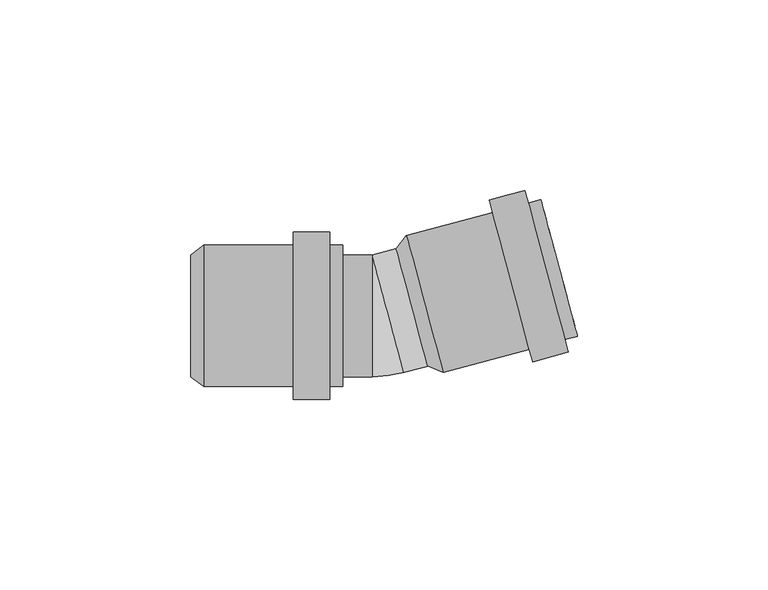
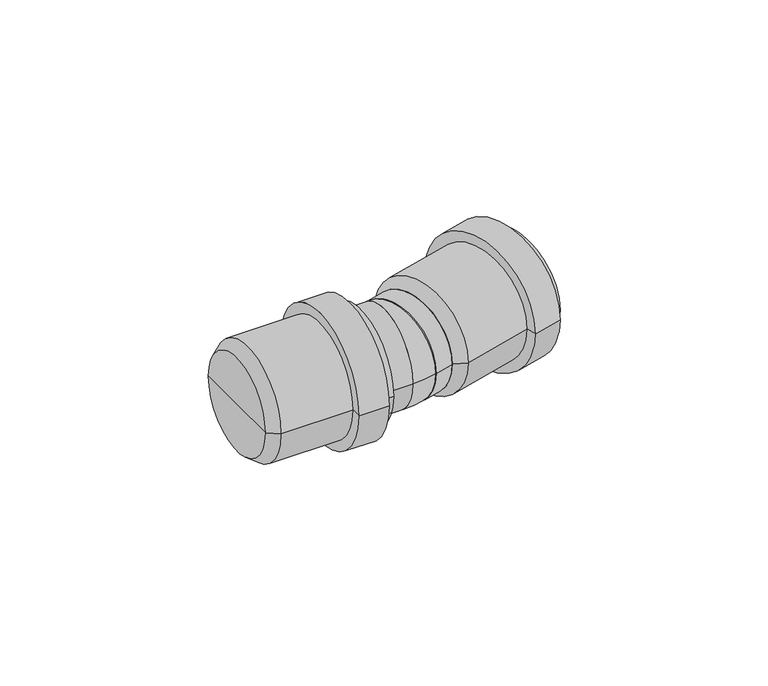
"""IFC4 building model written with IfcOpenShell, lengths in millimetres: pipe fitting geometry, pf_HTB : pf_HTB."""

from ifc_helpers import new_model, si_unit, point, frame, origin, origin_2d, place, context, project, spatial, polyline, circle_curve, ellipse_curve, trimmed, segment, composite_curve, outline, extrude, source, transform, mapped, element, save
from ifc_brep_helpers import plane_surface, cylinder_surface, revolved_surface, advanced_brep


def pipe_fitting_f9c090b8(model_context):
    return source(origin(), model_context, "Body", "SolidModel", [
        advanced_brep(
        [(12.4480668, -13.2289694, 0.0), (4.1658574, 17.680657, 0.0), (6.8736683, 21.0979308, 0.0), (16.5017367, -14.8345099, 0.0), (8.3069621, 2.2258438, 0.0), (51.7580294, -5.3876148, 0.0), (42.1299609, 30.544826, 0.0), (42.8028904, 28.0334188, 0.0), (51.0850999, -2.8762076, 0.0), (48.4738816, -6.2675995, 0.0), (38.8458131, 29.6648412, 0.0), (49.3538663, -9.5517473, 0.0), (37.9658284, 32.948989, 0.0), (39.9843858, -12.0622921, 0.0), (28.5963478, 30.4384443, 0.0), (39.1044011, -8.7781443, 0.0), (29.4763326, 27.1542965, 0.0), (15.8288072, -12.3231028, 0.0), (7.5465978, 18.5865237, 0.0), (11.6877025, 3.1317104, 0.0)],
        [
            (0, 1, circle_curve(frame((8.3069621, 2.2258438, 0.0), z_axis=(0.9659258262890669, 0.25881904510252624, 0.0), x_axis=(-0.25881904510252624, 0.9659258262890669, 0.0)), 16.0)),
            (1, 2),
            (2, 3, circle_curve(frame((11.6877025, 3.1317104, 0.0), z_axis=(-0.9659258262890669, -0.25881904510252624, 0.0), x_axis=(-0.25881904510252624, 0.9659258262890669, 0.0)), 18.6)),
            (3, 0),
            (1, 0, circle_curve(frame((8.3069621, 2.2258438, 0.0), z_axis=(0.9659258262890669, 0.25881904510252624, 0.0), x_axis=(-0.25881904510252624, 0.9659258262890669, 0.0)), 16.0)),
            (3, 2, circle_curve(frame((11.6877025, 3.1317104, 0.0), z_axis=(-0.9659258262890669, -0.25881904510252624, 0.0), x_axis=(-0.25881904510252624, 0.9659258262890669, 0.0)), 18.6)),
            (4, 1),
            (0, 4),
            (5, 6, circle_curve(frame((46.9439952, 12.5786056, 0.0), z_axis=(0.9659258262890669, 0.25881904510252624, 0.0), x_axis=(-0.25881904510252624, 0.9659258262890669, 0.0)), 18.6)),
            (6, 7),
            (7, 8, circle_curve(frame((46.9439952, 12.5786056, 0.0), z_axis=(-0.9659258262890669, -0.25881904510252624, 0.0), x_axis=(-0.25881904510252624, 0.9659258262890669, 0.0)), 16.0)),
            (8, 5),
            (6, 5, circle_curve(frame((46.9439952, 12.5786056, 0.0), z_axis=(0.9659258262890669, 0.25881904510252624, 0.0), x_axis=(-0.25881904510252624, 0.9659258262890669, 0.0)), 18.6)),
            (8, 7, circle_curve(frame((46.9439952, 12.5786056, 0.0), z_axis=(-0.9659258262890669, -0.25881904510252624, 0.0), x_axis=(-0.25881904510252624, 0.9659258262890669, 0.0)), 16.0)),
            (9, 10, circle_curve(frame((43.6598473, 11.6986208, 0.0), z_axis=(0.9659258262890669, 0.25881904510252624, 0.0), x_axis=(-0.25881904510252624, 0.9659258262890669, 0.0)), 18.6)),
            (10, 6),
            (5, 9),
            (10, 9, circle_curve(frame((43.6598473, 11.6986208, 0.0), z_axis=(0.9659258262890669, 0.25881904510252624, 0.0), x_axis=(-0.25881904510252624, 0.9659258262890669, 0.0)), 18.6)),
            (11, 12, circle_curve(frame((43.6598473, 11.6986208, 0.0), z_axis=(0.9659258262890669, 0.25881904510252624, 0.0), x_axis=(-0.25881904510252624, 0.9659258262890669, 0.0)), 22.0)),
            (12, 10),
            (9, 11),
            (12, 11, circle_curve(frame((43.6598473, 11.6986208, 0.0), z_axis=(0.9659258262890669, 0.25881904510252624, 0.0), x_axis=(-0.25881904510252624, 0.9659258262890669, 0.0)), 22.0)),
            (13, 14, circle_curve(frame((34.2903668, 9.1880761, 0.0), z_axis=(0.9659258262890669, 0.25881904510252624, 0.0), x_axis=(-0.25881904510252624, 0.9659258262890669, 0.0)), 22.0)),
            (14, 12),
            (11, 13),
            (14, 13, circle_curve(frame((34.2903668, 9.1880761, 0.0), z_axis=(0.9659258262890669, 0.25881904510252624, 0.0), x_axis=(-0.25881904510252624, 0.9659258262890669, 0.0)), 22.0)),
            (15, 16, circle_curve(frame((34.2903668, 9.1880761, 0.0), z_axis=(0.9659258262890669, 0.25881904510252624, 0.0), x_axis=(-0.25881904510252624, 0.9659258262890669, 0.0)), 18.6)),
            (16, 14),
            (13, 15),
            (16, 15, circle_curve(frame((34.2903668, 9.1880761, 0.0), z_axis=(0.9659258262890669, 0.25881904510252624, 0.0), x_axis=(-0.25881904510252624, 0.9659258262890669, 0.0)), 18.6)),
            (2, 16),
            (15, 3),
            (17, 18, circle_curve(frame((11.6877025, 3.1317104, 0.0), z_axis=(0.9659258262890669, 0.25881904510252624, 0.0), x_axis=(-0.25881904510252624, 0.9659258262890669, 0.0)), 16.0)),
            (18, 19),
            (19, 17),
            (18, 17, circle_curve(frame((11.6877025, 3.1317104, 0.0), z_axis=(0.9659258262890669, 0.25881904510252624, 0.0), x_axis=(-0.25881904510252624, 0.9659258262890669, 0.0)), 16.0)),
            (7, 18),
            (17, 8),
        ],
        [
            revolved_surface(polyline([(6.8736683, 21.0979308, 0.0), (4.1658574, 17.680657, 0.0)]), (8.3069621, 2.2258438, 0.0), (-0.9659258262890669, -0.25881904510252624, 0.0)),
            plane_surface(frame((8.3069621, 2.2258438, 0.0), z_axis=(-0.9659258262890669, -0.25881904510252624, 0.0), x_axis=(-0.25881904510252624, 0.9659258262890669, 0.0))),
            plane_surface(frame((46.9439952, 12.5786056, 0.0), z_axis=(0.9659258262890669, 0.25881904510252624, 0.0), x_axis=(-0.25881904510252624, 0.9659258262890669, 0.0))),
            cylinder_surface(frame((8.3069621, 2.2258438, 0.0), z_axis=(-0.9659258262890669, -0.25881904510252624, 0.0), x_axis=(-0.25881904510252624, 0.9659258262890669, 0.0)), 18.6),
            plane_surface(frame((43.6598473, 11.6986208, 0.0), z_axis=(0.9659258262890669, 0.25881904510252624, 0.0), x_axis=(-0.25881904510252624, 0.9659258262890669, 0.0))),
            cylinder_surface(frame((8.3069621, 2.2258438, 0.0), z_axis=(-0.9659258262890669, -0.25881904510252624, 0.0), x_axis=(-0.25881904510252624, 0.9659258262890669, 0.0)), 22.0),
            plane_surface(frame((34.2903668, 9.1880761, 0.0), z_axis=(-0.9659258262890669, -0.25881904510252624, 0.0), x_axis=(-0.25881904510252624, 0.9659258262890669, 0.0))),
            plane_surface(frame((11.6877025, 3.1317104, 0.0), z_axis=(0.9659258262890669, 0.25881904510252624, 0.0), x_axis=(-0.25881904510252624, 0.9659258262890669, 0.0))),
            revolved_surface(polyline([(7.546597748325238, 18.586523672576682, 0.0), (42.802890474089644, 28.033418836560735, 0.0)]), (8.3069621, 2.2258438, 0.0), (-0.9659258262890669, -0.25881904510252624, 0.0)),
        ],
        [
            (0, [[1, 2, 3, 4]]),
            (0, [[5, -4, 6, -2]]),
            (1, [[7, -1, 8]]),
            (1, [[-8, -5, -7]]),
            (2, [[9, 10, 11, 12]]),
            (2, [[13, -12, 14, -10]]),
            (3, [[15, 16, -9, 17]]),
            (3, [[18, -17, -13, -16]]),
            (4, [[19, 20, -15, 21]]),
            (4, [[22, -21, -18, -20]]),
            (5, [[23, 24, -19, 25]]),
            (5, [[26, -25, -22, -24]]),
            (6, [[27, 28, -23, 29]]),
            (6, [[30, -29, -26, -28]]),
            (3, [[-3, 31, -27, 32]]),
            (3, [[-6, -32, -30, -31]]),
            (7, [[33, 34, 35]]),
            (7, [[36, -35, -34]]),
            (8, [[-11, 37, -33, 38]]),
            (8, [[-14, -38, -36, -37]]),
        ],
    ),
        advanced_brep(
        [(-49.8, -16.0, 0.0), (-49.8, 16.0, 0.0), (-46.3, 18.6, 0.0), (-46.3, -18.6, 0.0), (-49.8, 0.0, 0.0), (-9.8, -18.6, 0.0), (-9.8, 18.6, 0.0), (-9.8, 16.0, 0.0), (-9.8, -16.0, 0.0), (-13.2, -18.6, 0.0), (-13.2, 18.6, 0.0), (-13.2, -22.0, 0.0), (-13.2, 22.0, 0.0), (-22.9, -22.0, 0.0), (-22.9, 22.0, 0.0), (-22.9, -18.6, 0.0), (-22.9, 18.6, 0.0), (-46.3, -16.0, 0.0), (-46.3, 16.0, 0.0), (-46.3, 0.0, 0.0)],
        [
            (0, 1, circle_curve(frame((-49.8, 0.0, 0.0), z_axis=(1.0, 0.0, 0.0), x_axis=(0.0, 1.0, 0.0)), 16.0)),
            (1, 2),
            (2, 3, circle_curve(frame((-46.3, 0.0, 0.0), z_axis=(-1.0, 0.0, 0.0), x_axis=(0.0, 1.0, 0.0)), 18.6)),
            (3, 0),
            (1, 0, circle_curve(frame((-49.8, 0.0, 0.0), z_axis=(1.0, 0.0, 0.0), x_axis=(0.0, 1.0, 0.0)), 16.0)),
            (3, 2, circle_curve(frame((-46.3, 0.0, 0.0), z_axis=(-1.0, 0.0, 0.0), x_axis=(0.0, 1.0, 0.0)), 18.6)),
            (4, 1),
            (0, 4),
            (5, 6, circle_curve(frame((-9.8, 0.0, 0.0), z_axis=(1.0, 0.0, 0.0), x_axis=(0.0, 1.0, 0.0)), 18.6)),
            (6, 7),
            (7, 8, circle_curve(frame((-9.8, 0.0, 0.0), z_axis=(-1.0, 0.0, 0.0), x_axis=(0.0, 1.0, 0.0)), 16.0)),
            (8, 5),
            (6, 5, circle_curve(frame((-9.8, 0.0, 0.0), z_axis=(1.0, 0.0, 0.0), x_axis=(0.0, 1.0, 0.0)), 18.6)),
            (8, 7, circle_curve(frame((-9.8, 0.0, 0.0), z_axis=(-1.0, 0.0, 0.0), x_axis=(0.0, 1.0, 0.0)), 16.0)),
            (9, 10, circle_curve(frame((-13.2, 0.0, 0.0), z_axis=(1.0, 0.0, 0.0), x_axis=(0.0, 1.0, 0.0)), 18.6)),
            (10, 6),
            (5, 9),
            (10, 9, circle_curve(frame((-13.2, 0.0, 0.0), z_axis=(1.0, 0.0, 0.0), x_axis=(0.0, 1.0, 0.0)), 18.6)),
            (11, 12, circle_curve(frame((-13.2, 0.0, 0.0), z_axis=(1.0, 0.0, 0.0), x_axis=(0.0, 1.0, 0.0)), 22.0)),
            (12, 10),
            (9, 11),
            (12, 11, circle_curve(frame((-13.2, 0.0, 0.0), z_axis=(1.0, 0.0, 0.0), x_axis=(0.0, 1.0, 0.0)), 22.0)),
            (13, 14, circle_curve(frame((-22.9, 0.0, 0.0), z_axis=(1.0, 0.0, 0.0), x_axis=(0.0, 1.0, 0.0)), 22.0)),
            (14, 12),
            (11, 13),
            (14, 13, circle_curve(frame((-22.9, 0.0, 0.0), z_axis=(1.0, 0.0, 0.0), x_axis=(0.0, 1.0, 0.0)), 22.0)),
            (15, 16, circle_curve(frame((-22.9, 0.0, 0.0), z_axis=(1.0, 0.0, 0.0), x_axis=(0.0, 1.0, 0.0)), 18.6)),
            (16, 14),
            (13, 15),
            (16, 15, circle_curve(frame((-22.9, 0.0, 0.0), z_axis=(1.0, 0.0, 0.0), x_axis=(0.0, 1.0, 0.0)), 18.6)),
            (2, 16),
            (15, 3),
            (17, 18, circle_curve(frame((-46.3, 0.0, 0.0), z_axis=(1.0, 0.0, 0.0), x_axis=(0.0, 1.0, 0.0)), 16.0)),
            (18, 19),
            (19, 17),
            (18, 17, circle_curve(frame((-46.3, 0.0, 0.0), z_axis=(1.0, 0.0, 0.0), x_axis=(0.0, 1.0, 0.0)), 16.0)),
            (7, 18),
            (17, 8),
        ],
        [
            revolved_surface(polyline([(-46.3, 18.6, 0.0), (-49.8, 16.0, 0.0)]), (-49.8, 0.0, 0.0), (-1.0, 0.0, 0.0)),
            plane_surface(frame((-49.8, 0.0, 0.0), z_axis=(-1.0, 0.0, 0.0), x_axis=(0.0, 1.0, 0.0))),
            plane_surface(frame((-9.8, 0.0, 0.0), z_axis=(1.0, 0.0, 0.0), x_axis=(0.0, 1.0, 0.0))),
            cylinder_surface(frame((-49.8, 0.0, 0.0), z_axis=(-1.0, 0.0, 0.0), x_axis=(0.0, 1.0, 0.0)), 18.6),
            plane_surface(frame((-13.2, 0.0, 0.0), z_axis=(1.0, 0.0, 0.0), x_axis=(0.0, 1.0, 0.0))),
            cylinder_surface(frame((-49.8, 0.0, 0.0), z_axis=(-1.0, 0.0, 0.0), x_axis=(0.0, 1.0, 0.0)), 22.0),
            plane_surface(frame((-22.9, 0.0, 0.0), z_axis=(-1.0, 0.0, 0.0), x_axis=(0.0, 1.0, 0.0))),
            plane_surface(frame((-46.3, 0.0, 0.0), z_axis=(1.0, 0.0, 0.0), x_axis=(0.0, 1.0, 0.0))),
            revolved_surface(polyline([(-46.3, 16.0, 0.0), (-9.799999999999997, 16.0, 0.0)]), (-49.8, 0.0, 0.0), (-1.0, 0.0, 0.0)),
        ],
        [
            (0, [[1, 2, 3, 4]]),
            (0, [[5, -4, 6, -2]]),
            (1, [[7, -1, 8]]),
            (1, [[-8, -5, -7]]),
            (2, [[9, 10, 11, 12]]),
            (2, [[13, -12, 14, -10]]),
            (3, [[15, 16, -9, 17]]),
            (3, [[18, -17, -13, -16]]),
            (4, [[19, 20, -15, 21]]),
            (4, [[22, -21, -18, -20]]),
            (5, [[23, 24, -19, 25]]),
            (5, [[26, -25, -22, -24]]),
            (6, [[27, 28, -23, 29]]),
            (6, [[30, -29, -26, -28]]),
            (3, [[-3, 31, -27, 32]]),
            (3, [[-6, -32, -30, -31]]),
            (7, [[33, 34, 35]]),
            (7, [[36, -35, -34]]),
            (8, [[-11, 37, -33, 38]]),
            (8, [[-14, -38, -36, -37]]),
        ],
    ),
        extrude(outline(composite_curve([segment(trimmed(circle_curve(origin_2d(), 16.0), [point((0.0, -16.0))], [point((0.0, 16.0))], False, "CARTESIAN"), True, "CONTINUOUS"), segment(trimmed(circle_curve(origin_2d(), 16.0), [point((0.0, 16.0))], [point((0.0, -16.0))], False, "CARTESIAN"), True, "CONTINUOUS")], self_intersect=False)), frame((2.0346648, 0.5451868, 0.0), z_axis=(0.9659258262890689, 0.2588190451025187, 0.0), x_axis=(0.0, 0.0, 1.0)), (0.0, 0.0, 1.0), 9.99356),
        extrude(outline(composite_curve([segment(trimmed(circle_curve(origin_2d(), 16.0), [point((-16.0, 0.0))], [point((16.0, 0.0))], False, "CARTESIAN"), True, "CONTINUOUS"), segment(trimmed(circle_curve(origin_2d(), 16.0), [point((16.0, 0.0))], [point((-16.0, 0.0))], False, "CARTESIAN"), True, "CONTINUOUS")], self_intersect=False)), frame((-46.3, 0.0, 0.0), z_axis=(1.0, 0.0, 0.0), x_axis=(0.0, 1.0, 0.0)), (0.0, 0.0, 1.0), 44.19356),
        advanced_brep(
        [(-2.10644, -16.0, 0.0), (-2.10644, 16.0, 0.0), (6.1757695, -14.9096264, 0.0)],
        [
            (0, 1, circle_curve(frame((-2.10644, 0.0, 0.0), z_axis=(-1.0, 0.0, 0.0), x_axis=(0.0, 1.0, 0.0)), 16.0)),
            (1, 0, circle_curve(frame((-2.10644, 0.0, 0.0), z_axis=(-1.0, 0.0, 0.0), x_axis=(0.0, 1.0, 0.0)), 16.0)),
            (2, 1, circle_curve(frame((2.0346648, 0.5451868, 0.0), z_axis=(0.9659258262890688, 0.25881904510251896, 0.0), x_axis=(-0.25881904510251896, 0.9659258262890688, 0.0)), 16.0)),
            (1, 2, circle_curve(frame((2.0346648, 0.5451868, 0.0), z_axis=(0.9659258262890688, 0.25881904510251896, 0.0), x_axis=(-0.25881904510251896, 0.9659258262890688, 0.0)), 16.0)),
            (2, 0, circle_curve(frame((-2.10644, 16.0, 0.0), z_axis=(0.0, 0.0, -1.0), x_axis=(0.0, -1.0, 0.0)), 32.0)),
        ],
        [
            plane_surface(frame((-2.10644, 16.0, -14.8), z_axis=(-1.0, 0.0, 0.0), x_axis=(0.0, -1.0, 0.0))),
            plane_surface(frame((-2.10644, 16.0, -14.8), z_axis=(0.9659258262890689, 0.258819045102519, 0.0), x_axis=(0.258819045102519, -0.9659258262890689, 0.0))),
            revolved_surface(trimmed(ellipse_curve(frame((-2.10644, 0.0, 0.0), z_axis=(1.0, 0.0, 0.0), x_axis=(0.0, 1.0, 0.0)), 16.0, 16.0), [point((-2.10644, -16.0, 0.0))], [point((-2.10644, 16.0, 0.0))], True, "CARTESIAN"), (-2.10644, 16.0, -14.8), (0.0, 0.0, -1.0)),
            revolved_surface(trimmed(ellipse_curve(frame((-2.10644, 0.0, 0.0), z_axis=(1.0, 0.0, 0.0), x_axis=(0.0, 1.0, 0.0)), 16.0, 16.0), [point((-2.10644, 16.0, 0.0))], [point((-2.10644, -16.0, 0.0))], True, "CARTESIAN"), (-2.10644, 16.0, -14.8), (0.0, 0.0, -1.0)),
        ],
        [
            (0, [[1, 2]]),
            (1, [[3, 4]]),
            (2, [[5, -2, -3]]),
            (3, [[-1, -5, -4]]),
        ],
    ),
    ])


if __name__ == "__main__":
    model = new_model("IFC4")
    model_context = context("Model", 3, world=origin())
    ifc_project = project(units=[si_unit("LENGTHUNIT", "METRE", prefix="MILLI")], contexts=[model_context])
    site = spatial("IfcSite", under=ifc_project)
    building = spatial("IfcBuilding", under=site)
    placement = place(None, origin())
    pipe_fitting_shape = pipe_fitting_f9c090b8(model_context)
    element("IfcPipeFitting", 1, ObjectType="pf_HTB : pf_HTB", at=placement, inside=building, context=model_context, shape_type="MappedRepresentation", body=[
        mapped(pipe_fitting_shape, transform((0.0, 0.0, 0.0), x_axis=(1.0, 0.0, 0.0), y_axis=(0.0, 1.0, 0.0), z_axis=(0.0, 0.0, 1.0))),
    ])
    save(model, "model.ifc")
